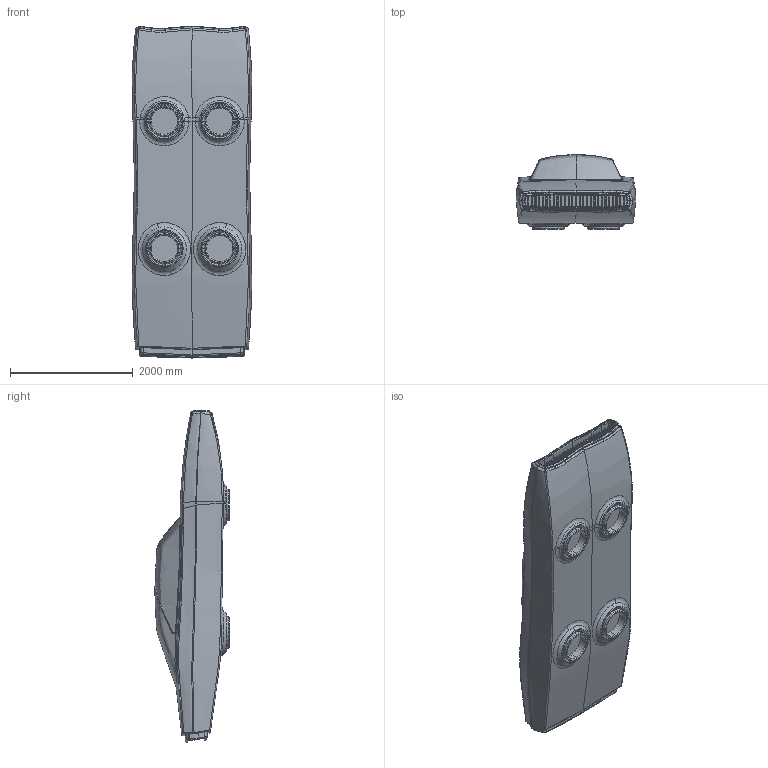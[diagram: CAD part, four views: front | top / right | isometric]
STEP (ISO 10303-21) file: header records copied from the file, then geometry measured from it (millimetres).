
FILE_DESCRIPTION (( 'STEP AP214' ), '1' );
FILE_NAME ('Flying charger.STEP', '2016-11-30T22:45:26', ( '' ), ( '' ), 'SwSTEP 2.0', 'SolidWorks 2012', '' );
FILE_SCHEMA (( 'AUTOMOTIVE_DESIGN' ));
Length unit declared in the file: millimetre
Products named in the file (1): Flying charger
Bounding box: 1946.75 x 1210.71 x 5398.93 mm (x, y, z)
Volume: 7129680140.4 mm3; surface area: 40445072.8 mm2
Topology: 65 solids, 65 shells, 983 faces, 2340 edges, 1485 vertices
Faces by surface type: bspline 476, plane 258, cylinder 207, torus 32, cone 10
Entity records: 161402 total; most frequent: CARTESIAN_POINT 137866, ORIENTED_EDGE 4668, DIRECTION 2497, EDGE_CURVE 2334, VERTEX_POINT 1485, B_SPLINE_CURVE_WITH_KNOTS 1204, EDGE_LOOP 999, FACE_OUTER_BOUND 983
